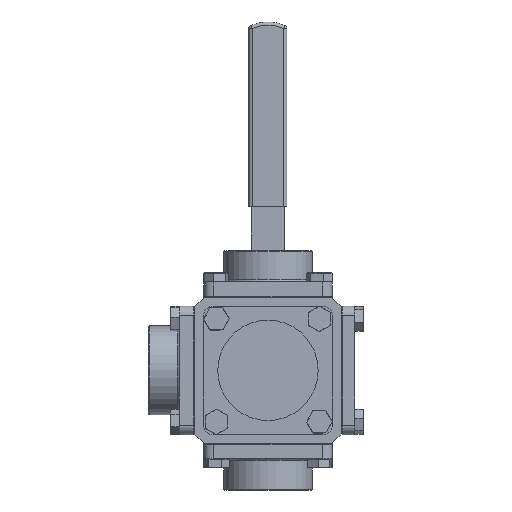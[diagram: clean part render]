
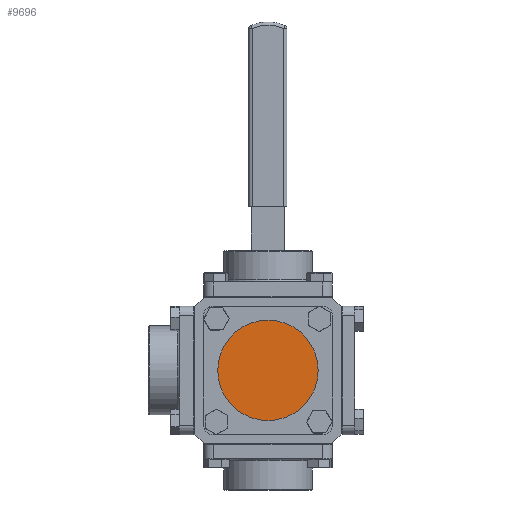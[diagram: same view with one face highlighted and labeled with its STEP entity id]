
A CAD part, front view. The second image highlights one B-rep face of the part: STEP entity #9696.
In plain terms, the highlighted planar face has unit normal (0, -1, 0).
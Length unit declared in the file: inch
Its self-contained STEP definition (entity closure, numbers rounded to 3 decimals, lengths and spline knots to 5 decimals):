
#478 = CARTESIAN_POINT ( 'NONE',  ( 0., -2.943, 0. ) ) ;
#4263 = VERTEX_POINT ( 'NONE', #12074 ) ;
#5919 = CIRCLE ( 'NONE', #23008, 1.95 ) ;
#6411 = AXIS2_PLACEMENT_3D ( 'NONE', #21132, #11644, #23577 ) ;
#7351 = DIRECTION ( 'NONE',  ( 0., 0., -1. ) ) ;
#7944 = DIRECTION ( 'NONE',  ( 0., -1., 0. ) ) ;
#9696 = ADVANCED_FACE ( 'NONE', ( #25394 ), #18984, .T. ) ;
#11382 = EDGE_CURVE ( 'NONE', #18518, #4263, #5919, .T. ) ;
#11644 = DIRECTION ( 'NONE',  ( 0., -1., 0. ) ) ;
#11827 = AXIS2_PLACEMENT_3D ( 'NONE', #478, #28033, #16568 ) ;
#12074 = CARTESIAN_POINT ( 'NONE',  ( 0., -2.943, -1.95 ) ) ;
#12789 = CIRCLE ( 'NONE', #11827, 1.95 ) ;
#16568 = DIRECTION ( 'NONE',  ( 0., 0., -1. ) ) ;
#18518 = VERTEX_POINT ( 'NONE', #22778 ) ;
#18974 = ORIENTED_EDGE ( 'NONE', *, *, #11382, .T. ) ;
#18984 = PLANE ( 'NONE',  #6411 ) ;
#19772 = EDGE_LOOP ( 'NONE', ( #21320, #18974 ) ) ;
#21132 = CARTESIAN_POINT ( 'NONE',  ( 0., -2.943, 0. ) ) ;
#21320 = ORIENTED_EDGE ( 'NONE', *, *, #27413, .T. ) ;
#21871 = CARTESIAN_POINT ( 'NONE',  ( 0., -2.943, 0. ) ) ;
#22778 = CARTESIAN_POINT ( 'NONE',  ( 0., -2.943, 1.95 ) ) ;
#23008 = AXIS2_PLACEMENT_3D ( 'NONE', #21871, #7944, #7351 ) ;
#23577 = DIRECTION ( 'NONE',  ( 0., 0., -1. ) ) ;
#25394 = FACE_OUTER_BOUND ( 'NONE', #19772, .T. ) ;
#27413 = EDGE_CURVE ( 'NONE', #4263, #18518, #12789, .T. ) ;
#28033 = DIRECTION ( 'NONE',  ( 0., -1., 0. ) ) ;
